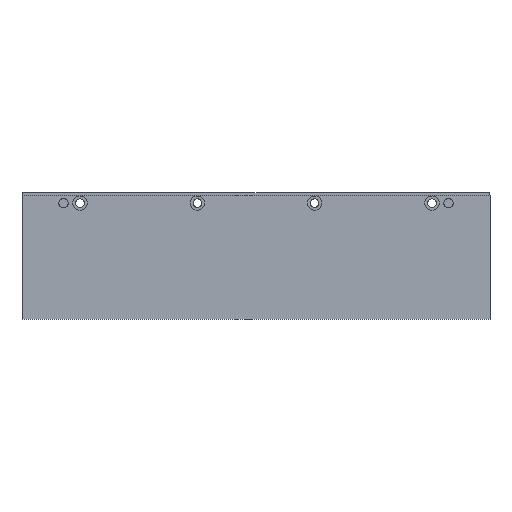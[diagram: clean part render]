
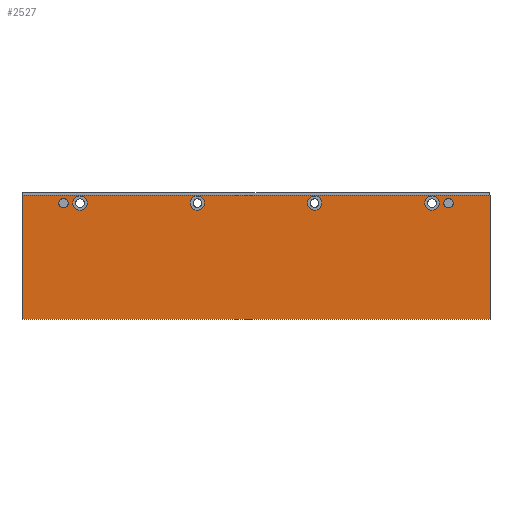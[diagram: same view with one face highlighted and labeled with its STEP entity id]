
A CAD part, left-side view. The second image highlights one B-rep face of the part: STEP entity #2527.
In plain terms, the highlighted planar face has unit normal (-1, 0, 0).
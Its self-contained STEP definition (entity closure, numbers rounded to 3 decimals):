
#537=DIRECTION('',(0.,0.,1.));
#538=VECTOR('',#537,67.77);
#539=CARTESIAN_POINT('',(-12.7,127.65,-69.));
#540=LINE('',#539,#538);
#561=CARTESIAN_POINT('',(-12.7,-96.,-5.69));
#562=DIRECTION('',(-1.,0.,0.));
#563=DIRECTION('',(0.,1.,0.));
#564=AXIS2_PLACEMENT_3D('',#561,#562,#563);
#566=CARTESIAN_POINT('',(-12.7,-96.,-5.69));
#567=DIRECTION('',(-1.,0.,0.));
#568=DIRECTION('',(0.,-1.,0.));
#569=AXIS2_PLACEMENT_3D('',#566,#567,#568);
#571=CARTESIAN_POINT('',(-12.7,-32.,-5.69));
#572=DIRECTION('',(-1.,0.,0.));
#573=DIRECTION('',(0.,1.,0.));
#574=AXIS2_PLACEMENT_3D('',#571,#572,#573);
#576=CARTESIAN_POINT('',(-12.7,-32.,-5.69));
#577=DIRECTION('',(-1.,0.,0.));
#578=DIRECTION('',(0.,-1.,0.));
#579=AXIS2_PLACEMENT_3D('',#576,#577,#578);
#581=CARTESIAN_POINT('',(-12.7,32.,-5.69));
#582=DIRECTION('',(-1.,0.,0.));
#583=DIRECTION('',(0.,1.,0.));
#584=AXIS2_PLACEMENT_3D('',#581,#582,#583);
#586=CARTESIAN_POINT('',(-12.7,32.,-5.69));
#587=DIRECTION('',(-1.,0.,0.));
#588=DIRECTION('',(0.,-1.,0.));
#589=AXIS2_PLACEMENT_3D('',#586,#587,#588);
#591=CARTESIAN_POINT('',(-12.7,96.,-5.69));
#592=DIRECTION('',(-1.,0.,0.));
#593=DIRECTION('',(0.,1.,0.));
#594=AXIS2_PLACEMENT_3D('',#591,#592,#593);
#596=CARTESIAN_POINT('',(-12.7,96.,-5.69));
#597=DIRECTION('',(-1.,0.,0.));
#598=DIRECTION('',(0.,-1.,0.));
#599=AXIS2_PLACEMENT_3D('',#596,#597,#598);
#601=CARTESIAN_POINT('',(-12.7,-105.,-5.69));
#602=DIRECTION('',(1.,0.,0.));
#603=DIRECTION('',(0.,1.,0.));
#604=AXIS2_PLACEMENT_3D('',#601,#602,#603);
#606=CARTESIAN_POINT('',(-12.7,-105.,-5.69));
#607=DIRECTION('',(1.,0.,0.));
#608=DIRECTION('',(0.,-1.,0.));
#609=AXIS2_PLACEMENT_3D('',#606,#607,#608);
#611=CARTESIAN_POINT('',(-12.7,105.,-5.69));
#612=DIRECTION('',(1.,0.,0.));
#613=DIRECTION('',(0.,1.,0.));
#614=AXIS2_PLACEMENT_3D('',#611,#612,#613);
#616=CARTESIAN_POINT('',(-12.7,105.,-5.69));
#617=DIRECTION('',(1.,0.,0.));
#618=DIRECTION('',(0.,-1.,0.));
#619=AXIS2_PLACEMENT_3D('',#616,#617,#618);
#621=DIRECTION('',(0.,1.,0.));
#622=VECTOR('',#621,255.3);
#623=CARTESIAN_POINT('',(-12.7,-127.65,-1.23));
#624=LINE('',#623,#622);
#625=DIRECTION('',(0.,1.,0.));
#626=VECTOR('',#625,255.3);
#627=CARTESIAN_POINT('',(-12.7,-127.65,-69.));
#628=LINE('',#627,#626);
#1001=DIRECTION('',(0.,0.,1.));
#1002=VECTOR('',#1001,67.77);
#1003=CARTESIAN_POINT('',(-12.7,-127.65,-69.));
#1004=LINE('',#1003,#1002);
#1245=CARTESIAN_POINT('',(-12.7,-127.65,-69.));
#1246=CARTESIAN_POINT('',(-12.7,127.65,-69.));
#1247=VERTEX_POINT('',#1245);
#1248=VERTEX_POINT('',#1246);
#1257=CARTESIAN_POINT('',(-12.7,-102.418,-5.69));
#1258=CARTESIAN_POINT('',(-12.7,-107.583,-5.69));
#1259=VERTEX_POINT('',#1257);
#1260=VERTEX_POINT('',#1258);
#1269=CARTESIAN_POINT('',(-12.7,-92.1,-5.69));
#1270=CARTESIAN_POINT('',(-12.7,-99.9,-5.69));
#1271=VERTEX_POINT('',#1269);
#1272=VERTEX_POINT('',#1270);
#1281=CARTESIAN_POINT('',(-12.7,-127.65,-1.23));
#1282=CARTESIAN_POINT('',(-12.7,127.65,-1.23));
#1283=VERTEX_POINT('',#1281);
#1284=VERTEX_POINT('',#1282);
#1335=CARTESIAN_POINT('',(-12.7,107.583,-5.69));
#1336=CARTESIAN_POINT('',(-12.7,102.418,-5.69));
#1337=VERTEX_POINT('',#1335);
#1338=VERTEX_POINT('',#1336);
#1363=CARTESIAN_POINT('',(-12.7,-28.1,-5.69));
#1364=CARTESIAN_POINT('',(-12.7,-35.9,-5.69));
#1365=VERTEX_POINT('',#1363);
#1366=VERTEX_POINT('',#1364);
#1375=CARTESIAN_POINT('',(-12.7,35.9,-5.69));
#1376=CARTESIAN_POINT('',(-12.7,28.1,-5.69));
#1377=VERTEX_POINT('',#1375);
#1378=VERTEX_POINT('',#1376);
#1387=CARTESIAN_POINT('',(-12.7,99.9,-5.69));
#1388=CARTESIAN_POINT('',(-12.7,92.1,-5.69));
#1389=VERTEX_POINT('',#1387);
#1390=VERTEX_POINT('',#1388);
#2478=CARTESIAN_POINT('',(-12.7,-127.65,-69.));
#2479=DIRECTION('',(-1.,0.,0.));
#2480=DIRECTION('',(0.,0.,1.));
#2481=AXIS2_PLACEMENT_3D('',#2478,#2479,#2480);
#2482=PLANE('',#2481);
#2483=ORIENTED_EDGE('',*,*,#2469,.F.);
#2485=ORIENTED_EDGE('',*,*,#2484,.F.);
#2487=ORIENTED_EDGE('',*,*,#2486,.T.);
#2488=ORIENTED_EDGE('',*,*,#2441,.T.);
#2489=EDGE_LOOP('',(#2483,#2485,#2487,#2488));
#2490=FACE_OUTER_BOUND('',#2489,.F.);
#2492=ORIENTED_EDGE('',*,*,#2491,.T.);
#2494=ORIENTED_EDGE('',*,*,#2493,.T.);
#2495=EDGE_LOOP('',(#2492,#2494));
#2496=FACE_BOUND('',#2495,.F.);
#2498=ORIENTED_EDGE('',*,*,#2497,.T.);
#2500=ORIENTED_EDGE('',*,*,#2499,.T.);
#2501=EDGE_LOOP('',(#2498,#2500));
#2502=FACE_BOUND('',#2501,.F.);
#2504=ORIENTED_EDGE('',*,*,#2503,.T.);
#2506=ORIENTED_EDGE('',*,*,#2505,.T.);
#2507=EDGE_LOOP('',(#2504,#2506));
#2508=FACE_BOUND('',#2507,.F.);
#2510=ORIENTED_EDGE('',*,*,#2509,.T.);
#2512=ORIENTED_EDGE('',*,*,#2511,.T.);
#2513=EDGE_LOOP('',(#2510,#2512));
#2514=FACE_BOUND('',#2513,.F.);
#2516=ORIENTED_EDGE('',*,*,#2515,.F.);
#2518=ORIENTED_EDGE('',*,*,#2517,.F.);
#2519=EDGE_LOOP('',(#2516,#2518));
#2520=FACE_BOUND('',#2519,.F.);
#2522=ORIENTED_EDGE('',*,*,#2521,.F.);
#2524=ORIENTED_EDGE('',*,*,#2523,.F.);
#2525=EDGE_LOOP('',(#2522,#2524));
#2526=FACE_BOUND('',#2525,.F.);
#2527=ADVANCED_FACE('',(#2490,#2496,#2502,#2508,#2514,#2520,#2526),#2482,.T.);
#565=CIRCLE('',#564,3.9);
#570=CIRCLE('',#569,3.9);
#575=CIRCLE('',#574,3.9);
#580=CIRCLE('',#579,3.9);
#585=CIRCLE('',#584,3.9);
#590=CIRCLE('',#589,3.9);
#595=CIRCLE('',#594,3.9);
#600=CIRCLE('',#599,3.9);
#605=CIRCLE('',#604,2.583);
#610=CIRCLE('',#609,2.583);
#615=CIRCLE('',#614,2.583);
#620=CIRCLE('',#619,2.583);
#2441=EDGE_CURVE('',#1248,#1284,#540,.T.);
#2469=EDGE_CURVE('',#1283,#1284,#624,.T.);
#2484=EDGE_CURVE('',#1247,#1283,#1004,.T.);
#2486=EDGE_CURVE('',#1247,#1248,#628,.T.);
#2491=EDGE_CURVE('',#1271,#1272,#565,.T.);
#2493=EDGE_CURVE('',#1272,#1271,#570,.T.);
#2497=EDGE_CURVE('',#1365,#1366,#575,.T.);
#2499=EDGE_CURVE('',#1366,#1365,#580,.T.);
#2503=EDGE_CURVE('',#1377,#1378,#585,.T.);
#2505=EDGE_CURVE('',#1378,#1377,#590,.T.);
#2509=EDGE_CURVE('',#1389,#1390,#595,.T.);
#2511=EDGE_CURVE('',#1390,#1389,#600,.T.);
#2515=EDGE_CURVE('',#1259,#1260,#605,.T.);
#2517=EDGE_CURVE('',#1260,#1259,#610,.T.);
#2521=EDGE_CURVE('',#1337,#1338,#615,.T.);
#2523=EDGE_CURVE('',#1338,#1337,#620,.T.);
